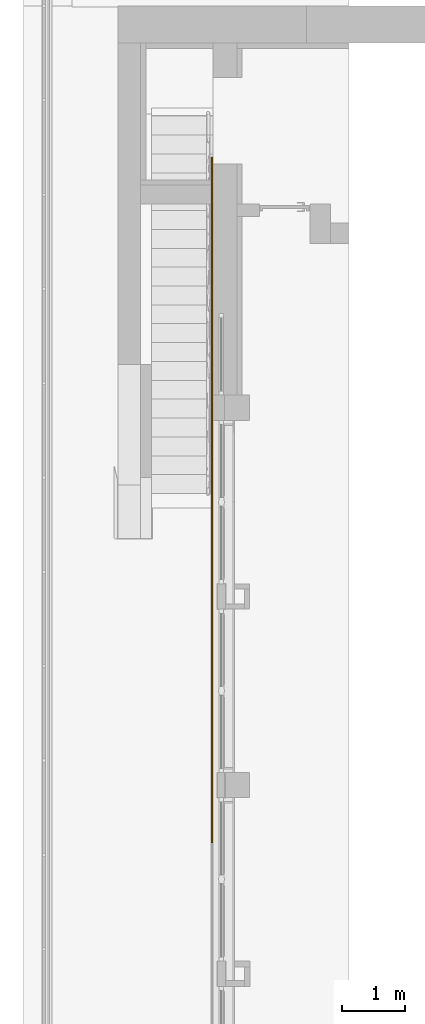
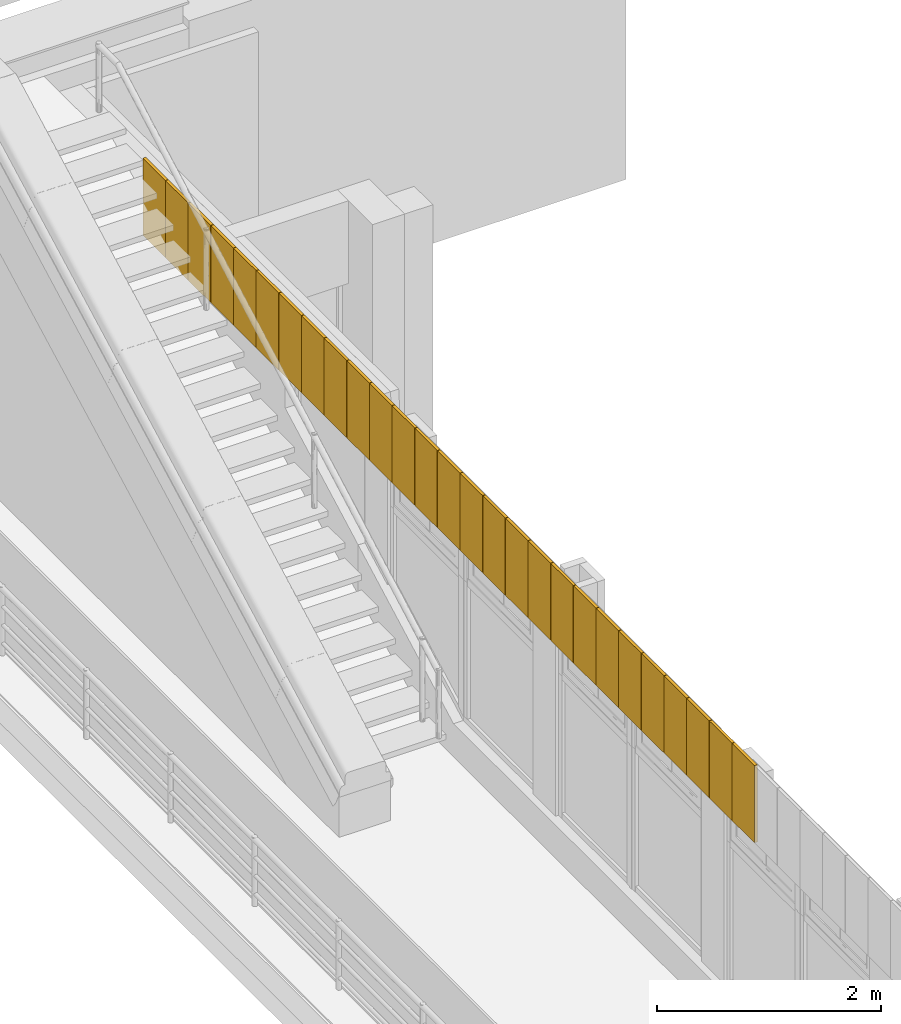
# One storey, part 16 of 16: 27 coverings.
"""IFC2X3 building model written with IfcOpenShell, lengths in millimetres."""

from ifc_helpers import new_model, entity, si_unit, converted_unit, derived_unit, direction, frame, frame_2d, origin, origin_2d_with_axis, place, context, subcontext, project, spatial, rectangle, extrude, material, type_object, element, save


model = new_model("IFC2X3")

# Units and contexts
model_context = context("Model", 3, precision=0.01, world=origin(), true_north=direction((6.123031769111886e-17, 1.0)))
body_context = subcontext(model_context, "Body", "Model", "MODEL_VIEW")
ifc_project = project(units=[si_unit("LENGTHUNIT", "METRE", prefix="MILLI"), si_unit("AREAUNIT", "SQUARE_METRE"), si_unit("VOLUMEUNIT", "CUBIC_METRE"), converted_unit("PLANEANGLEUNIT", "DEGREE", entity("IfcPlaneAngleMeasure", 0.017453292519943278), si_unit("PLANEANGLEUNIT", "RADIAN"), dimensions=[0, 0, 0, 0, 0, 0, 0]), si_unit("MASSUNIT", "GRAM", prefix="KILO"), derived_unit("MASSDENSITYUNIT", [(si_unit("MASSUNIT", "GRAM", prefix="KILO"), 1), (si_unit("LENGTHUNIT", "METRE"), -3)]), derived_unit("IONCONCENTRATIONUNIT", [(si_unit("MASSUNIT", "GRAM", prefix="KILO"), 1), (si_unit("LENGTHUNIT", "METRE"), -3)]), derived_unit("MOMENTOFINERTIAUNIT", [(si_unit("LENGTHUNIT", "METRE"), 4)]), si_unit("TIMEUNIT", "SECOND"), si_unit("FREQUENCYUNIT", "HERTZ"), si_unit("THERMODYNAMICTEMPERATUREUNIT", "DEGREE_CELSIUS"), derived_unit("THERMALTRANSMITTANCEUNIT", [(si_unit("MASSUNIT", "GRAM", prefix="KILO"), 1), (si_unit("THERMODYNAMICTEMPERATUREUNIT", "KELVIN"), -1), (si_unit("TIMEUNIT", "SECOND"), -3)]), derived_unit("THERMALCONDUCTANCEUNIT", [(si_unit("MASSUNIT", "GRAM", prefix="KILO"), 1), (si_unit("THERMODYNAMICTEMPERATUREUNIT", "KELVIN"), -1), (si_unit("TIMEUNIT", "SECOND"), -3), (si_unit("LENGTHUNIT", "METRE"), 1)]), derived_unit("VOLUMETRICFLOWRATEUNIT", [(si_unit("LENGTHUNIT", "METRE", prefix="DECI"), 3), (si_unit("TIMEUNIT", "SECOND"), -1)]), derived_unit("MASSFLOWRATEUNIT", [(si_unit("MASSUNIT", "GRAM", prefix="KILO"), 1), (si_unit("TIMEUNIT", "SECOND"), -1)]), derived_unit("ROTATIONALFREQUENCYUNIT", [(si_unit("TIMEUNIT", "SECOND"), -1)]), si_unit("ELECTRICCURRENTUNIT", "AMPERE"), si_unit("ELECTRICVOLTAGEUNIT", "VOLT"), si_unit("POWERUNIT", "WATT"), si_unit("FORCEUNIT", "NEWTON", prefix="KILO"), si_unit("ILLUMINANCEUNIT", "LUX"), si_unit("LUMINOUSFLUXUNIT", "LUMEN"), si_unit("LUMINOUSINTENSITYUNIT", "CANDELA"), si_unit("ENERGYUNIT", "JOULE"), derived_unit("USERDEFINED", [(si_unit("MASSUNIT", "GRAM", prefix="KILO"), -1), (si_unit("LENGTHUNIT", "METRE"), -2), (si_unit("TIMEUNIT", "SECOND"), 3), (si_unit("LUMINOUSFLUXUNIT", "LUMEN"), 1)]), derived_unit("USERDEFINED", [(si_unit("MASSUNIT", "GRAM", prefix="KILO"), 1), (si_unit("TIMEUNIT", "SECOND"), -3), (si_unit("LENGTHUNIT", "METRE"), 3), (si_unit("ELECTRICCURRENTUNIT", "AMPERE"), -2)]), derived_unit("SOUNDPOWERUNIT", [(si_unit("MASSUNIT", "GRAM", prefix="KILO"), 1), (si_unit("TIMEUNIT", "SECOND"), -3), (si_unit("LENGTHUNIT", "METRE"), 2)]), derived_unit("SOUNDPRESSUREUNIT", [(si_unit("MASSUNIT", "GRAM", prefix="KILO"), 1), (si_unit("LENGTHUNIT", "METRE"), -1), (si_unit("TIMEUNIT", "SECOND"), -2)]), derived_unit("LINEARVELOCITYUNIT", [(si_unit("LENGTHUNIT", "METRE"), 1), (si_unit("TIMEUNIT", "SECOND"), -1)]), si_unit("PRESSUREUNIT", "PASCAL"), derived_unit("USERDEFINED", [(si_unit("MASSUNIT", "GRAM", prefix="KILO"), 1), (si_unit("LENGTHUNIT", "METRE"), -2), (si_unit("TIMEUNIT", "SECOND"), -2)]), derived_unit("LINEARFORCEUNIT", [(si_unit("MASSUNIT", "GRAM", prefix="KILO"), 1), (si_unit("TIMEUNIT", "SECOND"), -2)]), derived_unit("PLANARFORCEUNIT", [(si_unit("MASSUNIT", "GRAM", prefix="KILO"), 1), (si_unit("LENGTHUNIT", "METRE"), -1), (si_unit("TIMEUNIT", "SECOND"), -2)]), derived_unit("SPECIFICHEATCAPACITYUNIT", [(si_unit("THERMODYNAMICTEMPERATUREUNIT", "KELVIN"), -1), (si_unit("LENGTHUNIT", "METRE"), 2), (si_unit("TIMEUNIT", "SECOND"), -2)]), derived_unit("HEATFLUXDENSITYUNIT", [(si_unit("MASSUNIT", "GRAM", prefix="KILO"), 1), (si_unit("TIMEUNIT", "SECOND"), -3)]), derived_unit("HEATINGVALUEUNIT", [(si_unit("LENGTHUNIT", "METRE"), 2), (si_unit("TIMEUNIT", "SECOND"), -2)]), derived_unit("VAPORPERMEABILITYUNIT", [(si_unit("LENGTHUNIT", "METRE"), -1), (si_unit("TIMEUNIT", "SECOND"), 1)]), derived_unit("DYNAMICVISCOSITYUNIT", [(si_unit("MASSUNIT", "GRAM", prefix="KILO"), 1), (si_unit("TIMEUNIT", "SECOND"), -1), (si_unit("LENGTHUNIT", "METRE"), -1)]), derived_unit("THERMALEXPANSIONCOEFFICIENTUNIT", [(si_unit("THERMODYNAMICTEMPERATUREUNIT", "KELVIN"), -1)]), derived_unit("MODULUSOFELASTICITYUNIT", [(si_unit("MASSUNIT", "GRAM", prefix="KILO"), 1), (si_unit("LENGTHUNIT", "METRE"), -1), (si_unit("TIMEUNIT", "SECOND"), -2)]), derived_unit("ISOTHERMALMOISTURECAPACITYUNIT", [(si_unit("MASSUNIT", "GRAM", prefix="KILO"), -1), (si_unit("LENGTHUNIT", "METRE"), 3)]), derived_unit("MOISTUREDIFFUSIVITYUNIT", [(si_unit("TIMEUNIT", "SECOND"), -1), (si_unit("LENGTHUNIT", "METRE"), 2)]), derived_unit("MASSPERLENGTHUNIT", [(si_unit("MASSUNIT", "GRAM", prefix="KILO"), 1), (si_unit("LENGTHUNIT", "METRE"), -1)]), derived_unit("THERMALRESISTANCEUNIT", [(si_unit("MASSUNIT", "GRAM", prefix="KILO"), -1), (si_unit("TIMEUNIT", "SECOND"), 3), (si_unit("THERMODYNAMICTEMPERATUREUNIT", "KELVIN"), 1)]), derived_unit("ACCELERATIONUNIT", [(si_unit("LENGTHUNIT", "METRE"), 1), (si_unit("TIMEUNIT", "SECOND"), -2)]), derived_unit("ANGULARVELOCITYUNIT", [(si_unit("TIMEUNIT", "SECOND"), -1), (si_unit("PLANEANGLEUNIT", "RADIAN"), 1)]), derived_unit("LINEARSTIFFNESSUNIT", [(si_unit("MASSUNIT", "GRAM", prefix="KILO"), 1), (si_unit("TIMEUNIT", "SECOND"), -2)]), derived_unit("WARPINGCONSTANTUNIT", [(si_unit("LENGTHUNIT", "METRE"), 6)]), derived_unit("LINEARMOMENTUNIT", [(si_unit("MASSUNIT", "GRAM", prefix="KILO"), 1), (si_unit("LENGTHUNIT", "METRE"), 1), (si_unit("TIMEUNIT", "SECOND"), -2)]), derived_unit("TORQUEUNIT", [(si_unit("MASSUNIT", "GRAM", prefix="KILO"), 1), (si_unit("LENGTHUNIT", "METRE"), 2), (si_unit("TIMEUNIT", "SECOND"), -2)])], contexts=[model_context])

# Site, building, storey
site_placement = place(None, origin())
site = spatial("IfcSite", under=ifc_project, at=site_placement, Name="Default", CompositionType="ELEMENT")
building_placement = place(site_placement, origin())
building = spatial("IfcBuilding", under=site, at=building_placement, Name="Eesti Rahvusraamatukogu hoone renoveerimise projekteerimistööd", CompositionType="ELEMENT")
storey_placement = place(building_placement, frame((0.0, 0.0, 8250.000000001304)))
storey = spatial("IfcBuildingStorey", under=building, at=storey_placement, Name="3. korrus", CompositionType="ELEMENT", Elevation=8250.000000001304)

# Coverings
ifc_material = material(Name="LUMION_facade new panels")
covering_type = type_object("IfcCoveringType", Name="Fassaadiplaat:FP-01- 400x840", PredefinedType="NOTDEFINED")
covering_1_placement = place(storey_placement, frame((0.0, 0.0, 2600.0)))
element("IfcCovering", 1, at=covering_1_placement, inside=storey, type_object=covering_type, material=ifc_material, Name="Fassaadiplaat:FP-01- 400x840", ObjectType="Fassaadiplaat:FP-01- 400x840", PredefinedType="NOTDEFINED", context=body_context, shape_type="SweptSolid", body=[
    extrude(rectangle(XDim=400.0, YDim=4.999999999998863, at=frame_2d((-2.1742607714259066e-12, 0.0), x_axis=(1.0, 0.0))), frame((-33797.49999999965, 35672.0, 0.0), z_axis=(0.0, 0.0, 1.0), x_axis=(0.0, 1.0, 0.0)), (0.0, 0.0, 1.0), 839.9999999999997),
    extrude(rectangle(XDim=400.0, YDim=24.99999999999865, at=frame_2d((-2.1742607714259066e-12, 2.1662671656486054e-12), x_axis=(1.0, 0.0))), frame((-33782.49999999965, 35672.0, 0.0), z_axis=(0.0, 0.0, 1.0), x_axis=(0.0, 1.0, 0.0)), (0.0, 0.0, 1.0), 839.9999999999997),
])
covering_2_placement = place(storey_placement, frame((0.0, 0.0, 2600.0)))
element("IfcCovering", 2, at=covering_2_placement, inside=storey, type_object=covering_type, material=ifc_material, Name="Fassaadiplaat:FP-01- 400x840", ObjectType="Fassaadiplaat:FP-01- 400x840", PredefinedType="NOTDEFINED", context=body_context, shape_type="SweptSolid", body=[
    extrude(rectangle(XDim=400.0, YDim=4.999999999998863, at=frame_2d((2.1742607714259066e-12, 0.0), x_axis=(1.0, 0.0))), frame((-33797.49999999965, 36076.0, 0.0), z_axis=(0.0, 0.0, 1.0), x_axis=(0.0, 1.0, 0.0)), (0.0, 0.0, 1.0), 839.9999999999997),
    extrude(rectangle(XDim=400.0, YDim=24.99999999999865, at=frame_2d((2.1742607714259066e-12, 2.1662671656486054e-12), x_axis=(1.0, 0.0))), frame((-33782.49999999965, 36076.0, 0.0), z_axis=(0.0, 0.0, 1.0), x_axis=(0.0, 1.0, 0.0)), (0.0, 0.0, 1.0), 839.9999999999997),
])
covering_3_placement = place(storey_placement, frame((0.0, 0.0, 2600.0)))
element("IfcCovering", 3, at=covering_3_placement, inside=storey, type_object=covering_type, material=ifc_material, Name="Fassaadiplaat:FP-01- 400x840", ObjectType="Fassaadiplaat:FP-01- 400x840", PredefinedType="NOTDEFINED", context=body_context, shape_type="SweptSolid", body=[
    extrude(rectangle(XDim=400.0, YDim=4.999999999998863, at=frame_2d((-2.1742607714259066e-12, 0.0), x_axis=(1.0, 0.0))), frame((-33797.49999999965, 36480.0, 0.0), z_axis=(0.0, 0.0, 1.0), x_axis=(0.0, 1.0, 0.0)), (0.0, 0.0, 1.0), 839.9999999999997),
    extrude(rectangle(XDim=400.0, YDim=24.99999999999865, at=frame_2d((-2.1742607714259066e-12, 2.1662671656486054e-12), x_axis=(1.0, 0.0))), frame((-33782.49999999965, 36480.0, 0.0), z_axis=(0.0, 0.0, 1.0), x_axis=(0.0, 1.0, 0.0)), (0.0, 0.0, 1.0), 839.9999999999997),
])
covering_4_placement = place(storey_placement, frame((0.0, 0.0, 2600.0)))
element("IfcCovering", 4, at=covering_4_placement, inside=storey, type_object=covering_type, material=ifc_material, Name="Fassaadiplaat:FP-01- 400x840", ObjectType="Fassaadiplaat:FP-01- 400x840", PredefinedType="NOTDEFINED", context=body_context, shape_type="SweptSolid", body=[
    extrude(rectangle(XDim=400.0, YDim=4.999999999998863, at=frame_2d((2.1742607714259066e-12, 0.0), x_axis=(1.0, 0.0))), frame((-33797.49999999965, 36884.0, 0.0), z_axis=(0.0, 0.0, 1.0), x_axis=(0.0, 1.0, 0.0)), (0.0, 0.0, 1.0), 839.9999999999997),
    extrude(rectangle(XDim=400.0, YDim=24.99999999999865, at=frame_2d((2.1742607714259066e-12, 2.1662671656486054e-12), x_axis=(1.0, 0.0))), frame((-33782.49999999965, 36884.0, 0.0), z_axis=(0.0, 0.0, 1.0), x_axis=(0.0, 1.0, 0.0)), (0.0, 0.0, 1.0), 839.9999999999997),
])
covering_5_placement = place(storey_placement, frame((0.0, 0.0, 2600.0)))
element("IfcCovering", 5, at=covering_5_placement, inside=storey, type_object=covering_type, material=ifc_material, Name="Fassaadiplaat:FP-01- 400x840", ObjectType="Fassaadiplaat:FP-01- 400x840", PredefinedType="NOTDEFINED", context=body_context, shape_type="SweptSolid", body=[
    extrude(rectangle(XDim=400.0, YDim=4.999999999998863, at=frame_2d((2.1742607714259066e-12, 0.0), x_axis=(1.0, 0.0))), frame((-33797.49999999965, 37288.0, 0.0), z_axis=(0.0, 0.0, 1.0), x_axis=(0.0, 1.0, 0.0)), (0.0, 0.0, 1.0), 839.9999999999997),
    extrude(rectangle(XDim=400.0, YDim=24.99999999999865, at=frame_2d((2.1742607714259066e-12, 2.1662671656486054e-12), x_axis=(1.0, 0.0))), frame((-33782.49999999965, 37288.0, 0.0), z_axis=(0.0, 0.0, 1.0), x_axis=(0.0, 1.0, 0.0)), (0.0, 0.0, 1.0), 839.9999999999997),
])
covering_6_placement = place(storey_placement, frame((0.0, 0.0, 2600.0)))
element("IfcCovering", 6, at=covering_6_placement, inside=storey, type_object=covering_type, material=ifc_material, Name="Fassaadiplaat:FP-01- 400x840", ObjectType="Fassaadiplaat:FP-01- 400x840", PredefinedType="NOTDEFINED", context=body_context, shape_type="SweptSolid", body=[
    extrude(rectangle(XDim=400.0, YDim=4.999999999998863, at=frame_2d((2.1742607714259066e-12, 0.0), x_axis=(1.0, 0.0))), frame((-33797.49999999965, 37692.0, 0.0), z_axis=(0.0, 0.0, 1.0), x_axis=(0.0, 1.0, 0.0)), (0.0, 0.0, 1.0), 839.9999999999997),
    extrude(rectangle(XDim=400.0, YDim=24.99999999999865, at=frame_2d((2.1742607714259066e-12, 2.1662671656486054e-12), x_axis=(1.0, 0.0))), frame((-33782.49999999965, 37692.0, 0.0), z_axis=(0.0, 0.0, 1.0), x_axis=(0.0, 1.0, 0.0)), (0.0, 0.0, 1.0), 839.9999999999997),
])
covering_7_placement = place(storey_placement, frame((0.0, 0.0, 2600.0)))
element("IfcCovering", 7, at=covering_7_placement, inside=storey, type_object=covering_type, material=ifc_material, Name="Fassaadiplaat:FP-01- 400x840", ObjectType="Fassaadiplaat:FP-01- 400x840", PredefinedType="NOTDEFINED", context=body_context, shape_type="SweptSolid", body=[
    extrude(rectangle(XDim=400.0, YDim=4.999999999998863, at=frame_2d((-2.1742607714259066e-12, 0.0), x_axis=(1.0, 0.0))), frame((-33797.49999999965, 38096.0, 0.0), z_axis=(0.0, 0.0, 1.0), x_axis=(0.0, 1.0, 0.0)), (0.0, 0.0, 1.0), 839.9999999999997),
    extrude(rectangle(XDim=400.0, YDim=24.99999999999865, at=frame_2d((-2.1742607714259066e-12, 2.1662671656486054e-12), x_axis=(1.0, 0.0))), frame((-33782.49999999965, 38096.0, 0.0), z_axis=(0.0, 0.0, 1.0), x_axis=(0.0, 1.0, 0.0)), (0.0, 0.0, 1.0), 839.9999999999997),
])
covering_8_placement = place(storey_placement, frame((0.0, 0.0, 2600.0)))
element("IfcCovering", 8, at=covering_8_placement, inside=storey, type_object=covering_type, material=ifc_material, Name="Fassaadiplaat:FP-01- 400x840", ObjectType="Fassaadiplaat:FP-01- 400x840", PredefinedType="NOTDEFINED", context=body_context, shape_type="SweptSolid", body=[
    extrude(rectangle(XDim=400.0, YDim=4.999999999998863, at=frame_2d((2.1742607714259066e-12, 0.0), x_axis=(1.0, 0.0))), frame((-33797.49999999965, 38500.0, 0.0), z_axis=(0.0, 0.0, 1.0), x_axis=(0.0, 1.0, 0.0)), (0.0, 0.0, 1.0), 839.9999999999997),
    extrude(rectangle(XDim=400.0, YDim=24.99999999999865, at=frame_2d((2.1742607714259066e-12, 2.1662671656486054e-12), x_axis=(1.0, 0.0))), frame((-33782.49999999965, 38500.0, 0.0), z_axis=(0.0, 0.0, 1.0), x_axis=(0.0, 1.0, 0.0)), (0.0, 0.0, 1.0), 839.9999999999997),
])
covering_9_placement = place(storey_placement, frame((0.0, 0.0, 2600.0)))
element("IfcCovering", 9, at=covering_9_placement, inside=storey, type_object=covering_type, material=ifc_material, Name="Fassaadiplaat:FP-01- 400x840", ObjectType="Fassaadiplaat:FP-01- 400x840", PredefinedType="NOTDEFINED", context=body_context, shape_type="SweptSolid", body=[
    extrude(rectangle(XDim=400.0, YDim=4.999999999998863, at=frame_2d((-2.1742607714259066e-12, 0.0), x_axis=(1.0, 0.0))), frame((-33797.49999999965, 38904.0, 0.0), z_axis=(0.0, 0.0, 1.0), x_axis=(0.0, 1.0, 0.0)), (0.0, 0.0, 1.0), 839.9999999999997),
    extrude(rectangle(XDim=400.0, YDim=24.99999999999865, at=frame_2d((-2.1742607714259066e-12, 2.1662671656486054e-12), x_axis=(1.0, 0.0))), frame((-33782.49999999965, 38904.0, 0.0), z_axis=(0.0, 0.0, 1.0), x_axis=(0.0, 1.0, 0.0)), (0.0, 0.0, 1.0), 839.9999999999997),
])
covering_10_placement = place(storey_placement, frame((0.0, 0.0, 2600.0)))
element("IfcCovering", 10, at=covering_10_placement, inside=storey, type_object=covering_type, material=ifc_material, Name="Fassaadiplaat:FP-01- 400x840", ObjectType="Fassaadiplaat:FP-01- 400x840", PredefinedType="NOTDEFINED", context=body_context, shape_type="SweptSolid", body=[
    extrude(rectangle(XDim=400.0000000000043, YDim=4.999999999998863, at=frame_2d((-4.334310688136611e-12, 0.0), x_axis=(1.0, 0.0))), frame((-33797.49999999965, 39308.0, 0.0), z_axis=(0.0, 0.0, 1.0), x_axis=(0.0, 1.0, 0.0)), (0.0, 0.0, 1.0), 839.9999999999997),
    extrude(rectangle(XDim=400.0000000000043, YDim=24.99999999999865, at=frame_2d((-4.334310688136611e-12, 2.1662671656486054e-12), x_axis=(1.0, 0.0))), frame((-33782.49999999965, 39308.0, 0.0), z_axis=(0.0, 0.0, 1.0), x_axis=(0.0, 1.0, 0.0)), (0.0, 0.0, 1.0), 839.9999999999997),
])
covering_11_placement = place(storey_placement, frame((0.0, 0.0, 2600.0)))
element("IfcCovering", 11, at=covering_11_placement, inside=storey, type_object=covering_type, material=ifc_material, Name="Fassaadiplaat:FP-01- 400x840", ObjectType="Fassaadiplaat:FP-01- 400x840", PredefinedType="NOTDEFINED", context=body_context, shape_type="SweptSolid", body=[
    extrude(rectangle(XDim=399.9999999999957, YDim=4.999999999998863, at=origin_2d_with_axis()), frame((-33797.49999999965, 39712.0, 0.0), z_axis=(0.0, 0.0, 1.0), x_axis=(0.0, 1.0, 0.0)), (0.0, 0.0, 1.0), 839.9999999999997),
    extrude(rectangle(XDim=399.9999999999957, YDim=24.99999999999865, at=frame_2d((0.0, 2.1662671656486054e-12), x_axis=(1.0, 0.0))), frame((-33782.49999999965, 39712.0, 0.0), z_axis=(0.0, 0.0, 1.0), x_axis=(0.0, 1.0, 0.0)), (0.0, 0.0, 1.0), 839.9999999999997),
])
covering_12_placement = place(storey_placement, frame((0.0, 0.0, 2600.0)))
element("IfcCovering", 12, at=covering_12_placement, inside=storey, type_object=covering_type, material=ifc_material, Name="Fassaadiplaat:FP-01- 400x840", ObjectType="Fassaadiplaat:FP-01- 400x840", PredefinedType="NOTDEFINED", context=body_context, shape_type="SweptSolid", body=[
    extrude(rectangle(XDim=400.0000000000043, YDim=4.999999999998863, at=frame_2d((-4.334310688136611e-12, 0.0), x_axis=(1.0, 0.0))), frame((-33797.49999999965, 40116.0, 0.0), z_axis=(0.0, 0.0, 1.0), x_axis=(0.0, 1.0, 0.0)), (0.0, 0.0, 1.0), 839.9999999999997),
    extrude(rectangle(XDim=400.0000000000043, YDim=24.99999999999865, at=frame_2d((-4.334310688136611e-12, 2.1662671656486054e-12), x_axis=(1.0, 0.0))), frame((-33782.49999999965, 40116.0, 0.0), z_axis=(0.0, 0.0, 1.0), x_axis=(0.0, 1.0, 0.0)), (0.0, 0.0, 1.0), 839.9999999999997),
])
covering_13_placement = place(storey_placement, frame((0.0, 0.0, 2600.0)))
element("IfcCovering", 13, at=covering_13_placement, inside=storey, type_object=covering_type, material=ifc_material, Name="Fassaadiplaat:FP-01- 400x840", ObjectType="Fassaadiplaat:FP-01- 400x840", PredefinedType="NOTDEFINED", context=body_context, shape_type="SweptSolid", body=[
    extrude(rectangle(XDim=400.0000000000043, YDim=4.999999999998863, at=frame_2d((-4.334310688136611e-12, 0.0), x_axis=(1.0, 0.0))), frame((-33797.49999999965, 40520.0, 0.0), z_axis=(0.0, 0.0, 1.0), x_axis=(0.0, 1.0, 0.0)), (0.0, 0.0, 1.0), 839.9999999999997),
    extrude(rectangle(XDim=400.0000000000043, YDim=24.99999999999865, at=frame_2d((-4.334310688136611e-12, 2.1662671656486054e-12), x_axis=(1.0, 0.0))), frame((-33782.49999999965, 40520.0, 0.0), z_axis=(0.0, 0.0, 1.0), x_axis=(0.0, 1.0, 0.0)), (0.0, 0.0, 1.0), 839.9999999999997),
])
covering_14_placement = place(storey_placement, frame((0.0, 0.0, 2600.0)))
element("IfcCovering", 14, at=covering_14_placement, inside=storey, type_object=covering_type, material=ifc_material, Name="Fassaadiplaat:FP-01- 400x840", ObjectType="Fassaadiplaat:FP-01- 400x840", PredefinedType="NOTDEFINED", context=body_context, shape_type="SweptSolid", body=[
    extrude(rectangle(XDim=400.0000000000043, YDim=4.999999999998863, at=frame_2d((-4.334310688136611e-12, 0.0), x_axis=(1.0, 0.0))), frame((-33797.49999999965, 40924.0, 0.0), z_axis=(0.0, 0.0, 1.0), x_axis=(0.0, 1.0, 0.0)), (0.0, 0.0, 1.0), 839.9999999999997),
    extrude(rectangle(XDim=400.0000000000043, YDim=24.99999999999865, at=frame_2d((-4.334310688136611e-12, 2.1662671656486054e-12), x_axis=(1.0, 0.0))), frame((-33782.49999999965, 40924.0, 0.0), z_axis=(0.0, 0.0, 1.0), x_axis=(0.0, 1.0, 0.0)), (0.0, 0.0, 1.0), 839.9999999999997),
])
covering_15_placement = place(storey_placement, frame((0.0, 0.0, 2600.0)))
element("IfcCovering", 15, at=covering_15_placement, inside=storey, type_object=covering_type, material=ifc_material, Name="Fassaadiplaat:FP-01- 400x840", ObjectType="Fassaadiplaat:FP-01- 400x840", PredefinedType="NOTDEFINED", context=body_context, shape_type="SweptSolid", body=[
    extrude(rectangle(XDim=399.9999999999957, YDim=4.999999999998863, at=origin_2d_with_axis()), frame((-33797.49999999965, 41328.0, 0.0), z_axis=(0.0, 0.0, 1.0), x_axis=(0.0, 1.0, 0.0)), (0.0, 0.0, 1.0), 839.9999999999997),
    extrude(rectangle(XDim=399.9999999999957, YDim=24.99999999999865, at=frame_2d((0.0, 2.1662671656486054e-12), x_axis=(1.0, 0.0))), frame((-33782.49999999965, 41328.0, 0.0), z_axis=(0.0, 0.0, 1.0), x_axis=(0.0, 1.0, 0.0)), (0.0, 0.0, 1.0), 839.9999999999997),
])
covering_16_placement = place(storey_placement, frame((0.0, 0.0, 2600.0)))
element("IfcCovering", 16, at=covering_16_placement, inside=storey, type_object=covering_type, material=ifc_material, Name="Fassaadiplaat:FP-01- 400x840", ObjectType="Fassaadiplaat:FP-01- 400x840", PredefinedType="NOTDEFINED", context=body_context, shape_type="SweptSolid", body=[
    extrude(rectangle(XDim=400.0000000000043, YDim=4.999999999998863, at=frame_2d((-4.334310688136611e-12, 0.0), x_axis=(1.0, 0.0))), frame((-33797.49999999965, 41732.0, 0.0), z_axis=(0.0, 0.0, 1.0), x_axis=(0.0, 1.0, 0.0)), (0.0, 0.0, 1.0), 839.9999999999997),
    extrude(rectangle(XDim=400.0000000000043, YDim=24.99999999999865, at=frame_2d((-4.334310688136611e-12, 2.1662671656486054e-12), x_axis=(1.0, 0.0))), frame((-33782.49999999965, 41732.0, 0.0), z_axis=(0.0, 0.0, 1.0), x_axis=(0.0, 1.0, 0.0)), (0.0, 0.0, 1.0), 839.9999999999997),
])
covering_17_placement = place(storey_placement, frame((0.0, 0.0, 2600.0)))
element("IfcCovering", 17, at=covering_17_placement, inside=storey, type_object=covering_type, material=ifc_material, Name="Fassaadiplaat:FP-01- 400x840", ObjectType="Fassaadiplaat:FP-01- 400x840", PredefinedType="NOTDEFINED", context=body_context, shape_type="SweptSolid", body=[
    extrude(rectangle(XDim=400.0000000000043, YDim=4.999999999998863, at=frame_2d((-4.334310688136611e-12, 0.0), x_axis=(1.0, 0.0))), frame((-33797.49999999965, 42136.0, 0.0), z_axis=(0.0, 0.0, 1.0), x_axis=(0.0, 1.0, 0.0)), (0.0, 0.0, 1.0), 839.9999999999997),
    extrude(rectangle(XDim=400.0000000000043, YDim=24.99999999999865, at=frame_2d((-4.334310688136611e-12, 2.1662671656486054e-12), x_axis=(1.0, 0.0))), frame((-33782.49999999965, 42136.0, 0.0), z_axis=(0.0, 0.0, 1.0), x_axis=(0.0, 1.0, 0.0)), (0.0, 0.0, 1.0), 839.9999999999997),
])
covering_18_placement = place(storey_placement, frame((0.0, 0.0, 2600.0)))
element("IfcCovering", 18, at=covering_18_placement, inside=storey, type_object=covering_type, material=ifc_material, Name="Fassaadiplaat:FP-01- 400x840", ObjectType="Fassaadiplaat:FP-01- 400x840", PredefinedType="NOTDEFINED", context=body_context, shape_type="SweptSolid", body=[
    extrude(rectangle(XDim=400.0000000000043, YDim=4.999999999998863, at=frame_2d((-4.334310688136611e-12, 0.0), x_axis=(1.0, 0.0))), frame((-33797.49999999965, 42540.0, 0.0), z_axis=(0.0, 0.0, 1.0), x_axis=(0.0, 1.0, 0.0)), (0.0, 0.0, 1.0), 839.9999999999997),
    extrude(rectangle(XDim=400.0000000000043, YDim=24.99999999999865, at=frame_2d((-4.334310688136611e-12, 2.1662671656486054e-12), x_axis=(1.0, 0.0))), frame((-33782.49999999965, 42540.0, 0.0), z_axis=(0.0, 0.0, 1.0), x_axis=(0.0, 1.0, 0.0)), (0.0, 0.0, 1.0), 839.9999999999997),
])
covering_19_placement = place(storey_placement, frame((0.0, 0.0, 2600.0)))
element("IfcCovering", 19, at=covering_19_placement, inside=storey, type_object=covering_type, material=ifc_material, Name="Fassaadiplaat:FP-01- 400x840", ObjectType="Fassaadiplaat:FP-01- 400x840", PredefinedType="NOTDEFINED", context=body_context, shape_type="SweptSolid", body=[
    extrude(rectangle(XDim=399.9999999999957, YDim=4.999999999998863, at=origin_2d_with_axis()), frame((-33797.49999999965, 42944.0, 0.0), z_axis=(0.0, 0.0, 1.0), x_axis=(0.0, 1.0, 0.0)), (0.0, 0.0, 1.0), 839.9999999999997),
    extrude(rectangle(XDim=399.9999999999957, YDim=24.99999999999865, at=frame_2d((0.0, 2.1662671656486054e-12), x_axis=(1.0, 0.0))), frame((-33782.49999999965, 42944.0, 0.0), z_axis=(0.0, 0.0, 1.0), x_axis=(0.0, 1.0, 0.0)), (0.0, 0.0, 1.0), 839.9999999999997),
])
covering_20_placement = place(storey_placement, frame((0.0, 0.0, 2600.0)))
element("IfcCovering", 20, at=covering_20_placement, inside=storey, type_object=covering_type, material=ifc_material, Name="Fassaadiplaat:FP-01- 400x840", ObjectType="Fassaadiplaat:FP-01- 400x840", PredefinedType="NOTDEFINED", context=body_context, shape_type="SweptSolid", body=[
    extrude(rectangle(XDim=400.0000000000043, YDim=4.999999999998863, at=frame_2d((-4.334310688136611e-12, 0.0), x_axis=(1.0, 0.0))), frame((-33797.49999999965, 43348.0, 0.0), z_axis=(0.0, 0.0, 1.0), x_axis=(0.0, 1.0, 0.0)), (0.0, 0.0, 1.0), 839.9999999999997),
    extrude(rectangle(XDim=400.0000000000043, YDim=24.99999999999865, at=frame_2d((-4.334310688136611e-12, 2.1662671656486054e-12), x_axis=(1.0, 0.0))), frame((-33782.49999999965, 43348.0, 0.0), z_axis=(0.0, 0.0, 1.0), x_axis=(0.0, 1.0, 0.0)), (0.0, 0.0, 1.0), 839.9999999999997),
])
covering_21_placement = place(storey_placement, frame((0.0, 0.0, 2600.0)))
element("IfcCovering", 21, at=covering_21_placement, inside=storey, type_object=covering_type, material=ifc_material, Name="Fassaadiplaat:FP-01- 400x840", ObjectType="Fassaadiplaat:FP-01- 400x840", PredefinedType="NOTDEFINED", context=body_context, shape_type="SweptSolid", body=[
    extrude(rectangle(XDim=400.0000000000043, YDim=4.999999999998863, at=frame_2d((-4.334310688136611e-12, 0.0), x_axis=(1.0, 0.0))), frame((-33797.49999999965, 43752.0, 0.0), z_axis=(0.0, 0.0, 1.0), x_axis=(0.0, 1.0, 0.0)), (0.0, 0.0, 1.0), 839.9999999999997),
    extrude(rectangle(XDim=400.0000000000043, YDim=24.99999999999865, at=frame_2d((-4.334310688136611e-12, 2.1662671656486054e-12), x_axis=(1.0, 0.0))), frame((-33782.49999999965, 43752.0, 0.0), z_axis=(0.0, 0.0, 1.0), x_axis=(0.0, 1.0, 0.0)), (0.0, 0.0, 1.0), 839.9999999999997),
])
covering_22_placement = place(storey_placement, frame((0.0, 0.0, 2600.0)))
element("IfcCovering", 22, at=covering_22_placement, inside=storey, type_object=covering_type, material=ifc_material, Name="Fassaadiplaat:FP-01- 400x840", ObjectType="Fassaadiplaat:FP-01- 400x840", PredefinedType="NOTDEFINED", context=body_context, shape_type="SweptSolid", body=[
    extrude(rectangle(XDim=400.0000000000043, YDim=4.999999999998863, at=frame_2d((-4.334310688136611e-12, 0.0), x_axis=(1.0, 0.0))), frame((-33797.49999999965, 44156.0, 0.0), z_axis=(0.0, 0.0, 1.0), x_axis=(0.0, 1.0, 0.0)), (0.0, 0.0, 1.0), 839.9999999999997),
    extrude(rectangle(XDim=400.0000000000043, YDim=24.99999999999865, at=frame_2d((-4.334310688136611e-12, 2.1662671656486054e-12), x_axis=(1.0, 0.0))), frame((-33782.49999999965, 44156.0, 0.0), z_axis=(0.0, 0.0, 1.0), x_axis=(0.0, 1.0, 0.0)), (0.0, 0.0, 1.0), 839.9999999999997),
])
covering_23_placement = place(storey_placement, frame((0.0, 0.0, 2600.0)))
element("IfcCovering", 23, at=covering_23_placement, inside=storey, type_object=covering_type, material=ifc_material, Name="Fassaadiplaat:FP-01- 400x840", ObjectType="Fassaadiplaat:FP-01- 400x840", PredefinedType="NOTDEFINED", context=body_context, shape_type="SweptSolid", body=[
    extrude(rectangle(XDim=399.9999999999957, YDim=4.999999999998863, at=origin_2d_with_axis()), frame((-33797.49999999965, 44560.0, 0.0), z_axis=(0.0, 0.0, 1.0), x_axis=(0.0, 1.0, 0.0)), (0.0, 0.0, 1.0), 839.9999999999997),
    extrude(rectangle(XDim=399.9999999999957, YDim=24.99999999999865, at=frame_2d((0.0, 2.1662671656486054e-12), x_axis=(1.0, 0.0))), frame((-33782.49999999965, 44560.0, 0.0), z_axis=(0.0, 0.0, 1.0), x_axis=(0.0, 1.0, 0.0)), (0.0, 0.0, 1.0), 839.9999999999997),
])
covering_24_placement = place(storey_placement, frame((0.0, 0.0, 2600.0)))
element("IfcCovering", 24, at=covering_24_placement, inside=storey, type_object=covering_type, material=ifc_material, Name="Fassaadiplaat:FP-01- 400x840", ObjectType="Fassaadiplaat:FP-01- 400x840", PredefinedType="NOTDEFINED", context=body_context, shape_type="SweptSolid", body=[
    extrude(rectangle(XDim=400.0000000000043, YDim=4.999999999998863, at=frame_2d((-4.334310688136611e-12, 0.0), x_axis=(1.0, 0.0))), frame((-33797.49999999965, 44964.0, 0.0), z_axis=(0.0, 0.0, 1.0), x_axis=(0.0, 1.0, 0.0)), (0.0, 0.0, 1.0), 839.9999999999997),
    extrude(rectangle(XDim=400.0000000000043, YDim=24.99999999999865, at=frame_2d((-4.334310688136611e-12, 2.1662671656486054e-12), x_axis=(1.0, 0.0))), frame((-33782.49999999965, 44964.0, 0.0), z_axis=(0.0, 0.0, 1.0), x_axis=(0.0, 1.0, 0.0)), (0.0, 0.0, 1.0), 839.9999999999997),
])
covering_25_placement = place(storey_placement, frame((0.0, 0.0, 2600.0)))
element("IfcCovering", 25, at=covering_25_placement, inside=storey, type_object=covering_type, material=ifc_material, Name="Fassaadiplaat:FP-01- 400x840", ObjectType="Fassaadiplaat:FP-01- 400x840", PredefinedType="NOTDEFINED", context=body_context, shape_type="SweptSolid", body=[
    extrude(rectangle(XDim=400.0000000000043, YDim=4.999999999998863, at=frame_2d((-4.334310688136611e-12, 0.0), x_axis=(1.0, 0.0))), frame((-33797.49999999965, 45368.0, 0.0), z_axis=(0.0, 0.0, 1.0), x_axis=(0.0, 1.0, 0.0)), (0.0, 0.0, 1.0), 839.9999999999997),
    extrude(rectangle(XDim=400.0000000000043, YDim=24.99999999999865, at=frame_2d((-4.334310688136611e-12, 2.1662671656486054e-12), x_axis=(1.0, 0.0))), frame((-33782.49999999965, 45368.0, 0.0), z_axis=(0.0, 0.0, 1.0), x_axis=(0.0, 1.0, 0.0)), (0.0, 0.0, 1.0), 839.9999999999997),
])
covering_26_placement = place(storey_placement, frame((0.0, 0.0, 2600.0)))
element("IfcCovering", 26, at=covering_26_placement, inside=storey, type_object=covering_type, material=ifc_material, Name="Fassaadiplaat:FP-01- 400x840", ObjectType="Fassaadiplaat:FP-01- 400x840", PredefinedType="NOTDEFINED", context=body_context, shape_type="SweptSolid", body=[
    extrude(rectangle(XDim=400.0000000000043, YDim=4.999999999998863, at=frame_2d((-4.334310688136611e-12, 0.0), x_axis=(1.0, 0.0))), frame((-33797.49999999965, 45772.0, 0.0), z_axis=(0.0, 0.0, 1.0), x_axis=(0.0, 1.0, 0.0)), (0.0, 0.0, 1.0), 839.9999999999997),
    extrude(rectangle(XDim=400.0000000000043, YDim=24.99999999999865, at=frame_2d((-4.334310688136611e-12, 2.1662671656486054e-12), x_axis=(1.0, 0.0))), frame((-33782.49999999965, 45772.0, 0.0), z_axis=(0.0, 0.0, 1.0), x_axis=(0.0, 1.0, 0.0)), (0.0, 0.0, 1.0), 839.9999999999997),
])
covering_27_placement = place(storey_placement, frame((0.0, 0.0, 2600.0)))
element("IfcCovering", 27, at=covering_27_placement, inside=storey, type_object=covering_type, material=ifc_material, Name="Fassaadiplaat:FP-01- 400x840", ObjectType="Fassaadiplaat:FP-01- 400x840", PredefinedType="NOTDEFINED", context=body_context, shape_type="SweptSolid", body=[
    extrude(rectangle(XDim=399.9999999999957, YDim=4.999999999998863, at=origin_2d_with_axis()), frame((-33797.49999999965, 46176.0, 0.0), z_axis=(0.0, 0.0, 1.0), x_axis=(0.0, 1.0, 0.0)), (0.0, 0.0, 1.0), 839.9999999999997),
    extrude(rectangle(XDim=399.9999999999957, YDim=24.99999999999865, at=frame_2d((0.0, 2.1662671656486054e-12), x_axis=(1.0, 0.0))), frame((-33782.49999999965, 46176.0, 0.0), z_axis=(0.0, 0.0, 1.0), x_axis=(0.0, 1.0, 0.0)), (0.0, 0.0, 1.0), 839.9999999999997),
])

save(model, "model.ifc")
